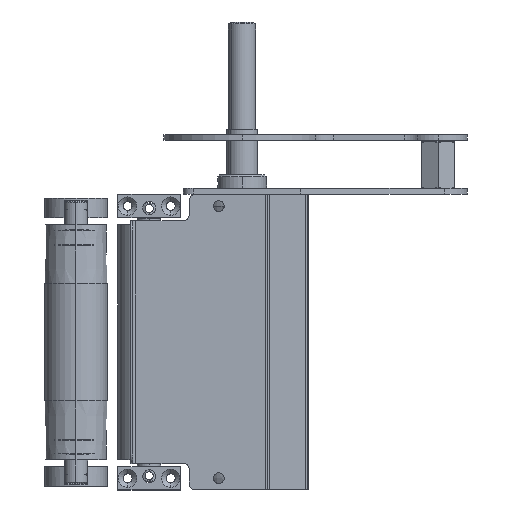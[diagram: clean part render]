
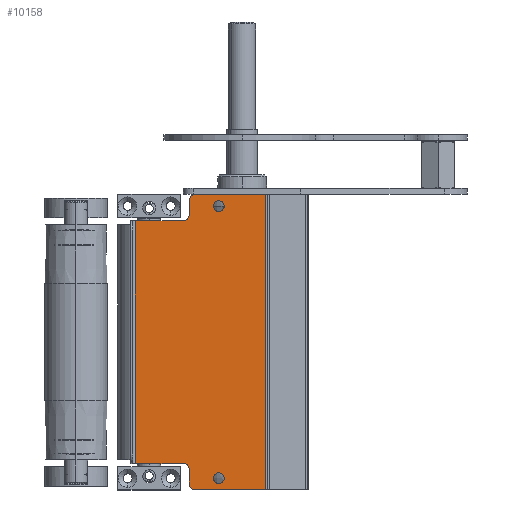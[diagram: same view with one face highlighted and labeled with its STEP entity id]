
A CAD part, left-side view. The second image highlights one B-rep face of the part: STEP entity #10158.
In plain terms, the highlighted planar face has unit normal (-1, 0, 0) as drawn and (1, 0, 0) by its records, which use the part's own axes.
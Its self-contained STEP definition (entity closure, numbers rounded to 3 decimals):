
#348 = VECTOR ( 'NONE', #1657, 1000. ) ;
#561 = EDGE_LOOP ( 'NONE', ( #9410, #15006 ) ) ;
#632 = AXIS2_PLACEMENT_3D ( 'NONE', #2927, #8951, #13638 ) ;
#760 = VERTEX_POINT ( 'NONE', #16220 ) ;
#1022 = LINE ( 'NONE', #19606, #15392 ) ;
#1382 = ORIENTED_EDGE ( 'NONE', *, *, #13102, .F. ) ;
#1437 = ORIENTED_EDGE ( 'NONE', *, *, #13492, .F. ) ;
#1502 = DIRECTION ( 'NONE',  ( 0., 0., -1. ) ) ;
#1572 = CARTESIAN_POINT ( 'NONE',  ( 51.5, 62.5, -137.5 ) ) ;
#1657 = DIRECTION ( 'NONE',  ( 0., 1., 0. ) ) ;
#1794 = CARTESIAN_POINT ( 'NONE',  ( 51.5, 19.793, -13.5 ) ) ;
#1799 = CARTESIAN_POINT ( 'NONE',  ( 51.5, 19.793, 0. ) ) ;
#1870 = DIRECTION ( 'NONE',  ( 1., 0., 0. ) ) ;
#1902 = CARTESIAN_POINT ( 'NONE',  ( 51.5, 44.5, -6. ) ) ;
#2020 = DIRECTION ( 'NONE',  ( 0., 1., 0. ) ) ;
#2517 = DIRECTION ( 'NONE',  ( 0., -1., 0. ) ) ;
#2795 = VERTEX_POINT ( 'NONE', #9526 ) ;
#2823 = CARTESIAN_POINT ( 'NONE',  ( 51.5, 20.414, -335.938 ) ) ;
#2872 = EDGE_CURVE ( 'NONE', #2795, #10254, #3961, .T. ) ;
#2927 = CARTESIAN_POINT ( 'NONE',  ( 51.5, 56.5, -148. ) ) ;
#3287 = LINE ( 'NONE', #10409, #19846 ) ;
#3330 = DIRECTION ( 'NONE',  ( 0., -1., 0. ) ) ;
#3345 = CARTESIAN_POINT ( 'NONE',  ( 51.5, 44.5, -145. ) ) ;
#3369 = DIRECTION ( 'NONE',  ( -1., 0., 0. ) ) ;
#3447 = VERTEX_POINT ( 'NONE', #1572 ) ;
#3876 = VERTEX_POINT ( 'NONE', #8550 ) ;
#3932 = ORIENTED_EDGE ( 'NONE', *, *, #7480, .F. ) ;
#3961 = CIRCLE ( 'NONE', #14353, 2.75 ) ;
#3996 = EDGE_CURVE ( 'NONE', #3876, #13644, #18097, .T. ) ;
#4195 = FACE_OUTER_BOUND ( 'NONE', #14173, .T. ) ;
#4614 = DIRECTION ( 'NONE',  ( 1., 0., 0. ) ) ;
#4841 = ORIENTED_EDGE ( 'NONE', *, *, #11700, .T. ) ;
#4881 = CARTESIAN_POINT ( 'NONE',  ( 51.5, 20.414, 0. ) ) ;
#4941 = DIRECTION ( 'NONE',  ( 1., 0., 0. ) ) ;
#5124 = VECTOR ( 'NONE', #10842, 1000. ) ;
#5127 = EDGE_CURVE ( 'NONE', #14538, #6353, #5354, .T. ) ;
#5196 = ORIENTED_EDGE ( 'NONE', *, *, #7104, .F. ) ;
#5284 = ORIENTED_EDGE ( 'NONE', *, *, #11129, .F. ) ;
#5354 = LINE ( 'NONE', #2823, #17805 ) ;
#5815 = CIRCLE ( 'NONE', #13918, 2.75 ) ;
#5840 = DIRECTION ( 'NONE',  ( 0., 1., 0. ) ) ;
#5964 = ORIENTED_EDGE ( 'NONE', *, *, #16109, .T. ) ;
#6174 = CARTESIAN_POINT ( 'NONE',  ( 51.5, 41.75, -145. ) ) ;
#6257 = CARTESIAN_POINT ( 'NONE',  ( 51.5, 56.5, -151. ) ) ;
#6293 = LINE ( 'NONE', #18574, #9877 ) ;
#6353 = VERTEX_POINT ( 'NONE', #4881 ) ;
#6643 = VERTEX_POINT ( 'NONE', #17859 ) ;
#6844 = AXIS2_PLACEMENT_3D ( 'NONE', #13701, #4614, #12037 ) ;
#7103 = AXIS2_PLACEMENT_3D ( 'NONE', #18736, #15765, #17316 ) ;
#7104 = EDGE_CURVE ( 'NONE', #6353, #8943, #9180, .T. ) ;
#7274 = EDGE_CURVE ( 'NONE', #14449, #19330, #13244, .T. ) ;
#7307 = CARTESIAN_POINT ( 'NONE',  ( 51.5, 44.5, -6. ) ) ;
#7371 = DIRECTION ( 'NONE',  ( 1., 0., 0. ) ) ;
#7480 = EDGE_CURVE ( 'NONE', #15018, #16226, #1022, .T. ) ;
#8029 = VECTOR ( 'NONE', #3330, 1000. ) ;
#8085 = CARTESIAN_POINT ( 'NONE',  ( 51.5, 19.793, -137.5 ) ) ;
#8272 = FACE_BOUND ( 'NONE', #561, .T. ) ;
#8286 = CARTESIAN_POINT ( 'NONE',  ( 51.5, 44.5, -145. ) ) ;
#8309 = LINE ( 'NONE', #10684, #14054 ) ;
#8460 = VERTEX_POINT ( 'NONE', #6257 ) ;
#8550 = CARTESIAN_POINT ( 'NONE',  ( 51.5, 47.25, -145. ) ) ;
#8943 = VERTEX_POINT ( 'NONE', #10726 ) ;
#8951 = DIRECTION ( 'NONE',  ( 1., 0., 0. ) ) ;
#9056 = CIRCLE ( 'NONE', #7103, 3. ) ;
#9180 = LINE ( 'NONE', #1799, #5124 ) ;
#9215 = FACE_BOUND ( 'NONE', #13654, .T. ) ;
#9410 = ORIENTED_EDGE ( 'NONE', *, *, #2872, .F. ) ;
#9522 = CARTESIAN_POINT ( 'NONE',  ( 51.5, 62.5, -140.5 ) ) ;
#9526 = CARTESIAN_POINT ( 'NONE',  ( 51.5, 41.75, -6. ) ) ;
#9877 = VECTOR ( 'NONE', #18500, 1000. ) ;
#10013 = CARTESIAN_POINT ( 'NONE',  ( 51.5, 62.5, -10.5 ) ) ;
#10018 = DIRECTION ( 'NONE',  ( 0., 1., 0. ) ) ;
#10129 = CARTESIAN_POINT ( 'NONE',  ( 51.5, 59.5, -10.5 ) ) ;
#10146 = DIRECTION ( 'NONE',  ( 0., 1., 0. ) ) ;
#10158 = ADVANCED_FACE ( 'NONE', ( #8272, #9215, #4195 ), #15030, .T. ) ;
#10254 = VERTEX_POINT ( 'NONE', #15104 ) ;
#10409 = CARTESIAN_POINT ( 'NONE',  ( 51.5, 19.793, -151. ) ) ;
#10684 = CARTESIAN_POINT ( 'NONE',  ( 51.5, 59.5, -335.938 ) ) ;
#10726 = CARTESIAN_POINT ( 'NONE',  ( 51.5, 56.5, 0. ) ) ;
#10842 = DIRECTION ( 'NONE',  ( 0., 1., 0. ) ) ;
#11129 = EDGE_CURVE ( 'NONE', #13644, #3876, #5815, .T. ) ;
#11341 = CARTESIAN_POINT ( 'NONE',  ( 51.5, 87., -137.5 ) ) ;
#11368 = LINE ( 'NONE', #8085, #8029 ) ;
#11620 = CARTESIAN_POINT ( 'NONE',  ( 51.5, 59.5, -140.5 ) ) ;
#11700 = EDGE_CURVE ( 'NONE', #6643, #8943, #9056, .T. ) ;
#11882 = CARTESIAN_POINT ( 'NONE',  ( 51.5, 62.5, -13.5 ) ) ;
#12023 = DIRECTION ( 'NONE',  ( 0., 0., -1. ) ) ;
#12037 = DIRECTION ( 'NONE',  ( 0., 1., 0. ) ) ;
#12582 = AXIS2_PLACEMENT_3D ( 'NONE', #8286, #14430, #10018 ) ;
#12973 = AXIS2_PLACEMENT_3D ( 'NONE', #10013, #13225, #10146 ) ;
#13102 = EDGE_CURVE ( 'NONE', #8460, #14538, #3287, .T. ) ;
#13169 = EDGE_CURVE ( 'NONE', #15018, #3447, #14077, .T. ) ;
#13186 = CIRCLE ( 'NONE', #18226, 2.75 ) ;
#13225 = DIRECTION ( 'NONE',  ( -1., 0., 0. ) ) ;
#13244 = CIRCLE ( 'NONE', #12973, 3. ) ;
#13464 = DIRECTION ( 'NONE',  ( 0., 0., 1. ) ) ;
#13492 = EDGE_CURVE ( 'NONE', #6643, #19330, #8309, .T. ) ;
#13638 = DIRECTION ( 'NONE',  ( 0., 1., 0. ) ) ;
#13644 = VERTEX_POINT ( 'NONE', #6174 ) ;
#13654 = EDGE_LOOP ( 'NONE', ( #5284, #18371 ) ) ;
#13701 = CARTESIAN_POINT ( 'NONE',  ( 51.5, 19.793, -335.938 ) ) ;
#13918 = AXIS2_PLACEMENT_3D ( 'NONE', #3345, #1870, #15592 ) ;
#13932 = ORIENTED_EDGE ( 'NONE', *, *, #5127, .F. ) ;
#14054 = VECTOR ( 'NONE', #1502, 1000. ) ;
#14077 = CIRCLE ( 'NONE', #15906, 3. ) ;
#14166 = CIRCLE ( 'NONE', #632, 3. ) ;
#14173 = EDGE_LOOP ( 'NONE', ( #1382, #5964, #3932, #17048, #15350, #15874, #19700, #18618, #1437, #4841, #5196, #13932 ) ) ;
#14295 = EDGE_CURVE ( 'NONE', #14449, #760, #16143, .T. ) ;
#14353 = AXIS2_PLACEMENT_3D ( 'NONE', #1902, #4941, #15629 ) ;
#14430 = DIRECTION ( 'NONE',  ( 1., 0., 0. ) ) ;
#14449 = VERTEX_POINT ( 'NONE', #11882 ) ;
#14538 = VERTEX_POINT ( 'NONE', #17223 ) ;
#15006 = ORIENTED_EDGE ( 'NONE', *, *, #16572, .F. ) ;
#15018 = VERTEX_POINT ( 'NONE', #11620 ) ;
#15030 = PLANE ( 'NONE',  #6844 ) ;
#15104 = CARTESIAN_POINT ( 'NONE',  ( 51.5, 47.25, -6. ) ) ;
#15350 = ORIENTED_EDGE ( 'NONE', *, *, #18971, .F. ) ;
#15392 = VECTOR ( 'NONE', #12023, 1000. ) ;
#15449 = EDGE_CURVE ( 'NONE', #19239, #760, #6293, .T. ) ;
#15592 = DIRECTION ( 'NONE',  ( 0., 1., 0. ) ) ;
#15629 = DIRECTION ( 'NONE',  ( 0., 1., 0. ) ) ;
#15765 = DIRECTION ( 'NONE',  ( 1., 0., 0. ) ) ;
#15874 = ORIENTED_EDGE ( 'NONE', *, *, #15449, .T. ) ;
#15906 = AXIS2_PLACEMENT_3D ( 'NONE', #9522, #3369, #2020 ) ;
#16109 = EDGE_CURVE ( 'NONE', #8460, #16226, #14166, .T. ) ;
#16143 = LINE ( 'NONE', #1794, #348 ) ;
#16220 = CARTESIAN_POINT ( 'NONE',  ( 51.5, 87., -13.5 ) ) ;
#16226 = VERTEX_POINT ( 'NONE', #16981 ) ;
#16572 = EDGE_CURVE ( 'NONE', #10254, #2795, #13186, .T. ) ;
#16981 = CARTESIAN_POINT ( 'NONE',  ( 51.5, 59.5, -148. ) ) ;
#17048 = ORIENTED_EDGE ( 'NONE', *, *, #13169, .T. ) ;
#17223 = CARTESIAN_POINT ( 'NONE',  ( 51.5, 20.414, -151. ) ) ;
#17316 = DIRECTION ( 'NONE',  ( 0., 1., 0. ) ) ;
#17805 = VECTOR ( 'NONE', #13464, 1000. ) ;
#17859 = CARTESIAN_POINT ( 'NONE',  ( 51.5, 59.5, -3. ) ) ;
#18097 = CIRCLE ( 'NONE', #12582, 2.75 ) ;
#18226 = AXIS2_PLACEMENT_3D ( 'NONE', #7307, #7371, #5840 ) ;
#18371 = ORIENTED_EDGE ( 'NONE', *, *, #3996, .F. ) ;
#18500 = DIRECTION ( 'NONE',  ( 0., 0., 1. ) ) ;
#18574 = CARTESIAN_POINT ( 'NONE',  ( 51.5, 87., -335.938 ) ) ;
#18618 = ORIENTED_EDGE ( 'NONE', *, *, #7274, .T. ) ;
#18736 = CARTESIAN_POINT ( 'NONE',  ( 51.5, 56.5, -3. ) ) ;
#18971 = EDGE_CURVE ( 'NONE', #19239, #3447, #11368, .T. ) ;
#19239 = VERTEX_POINT ( 'NONE', #11341 ) ;
#19330 = VERTEX_POINT ( 'NONE', #10129 ) ;
#19606 = CARTESIAN_POINT ( 'NONE',  ( 51.5, 59.5, -335.938 ) ) ;
#19700 = ORIENTED_EDGE ( 'NONE', *, *, #14295, .F. ) ;
#19846 = VECTOR ( 'NONE', #2517, 1000. ) ;
